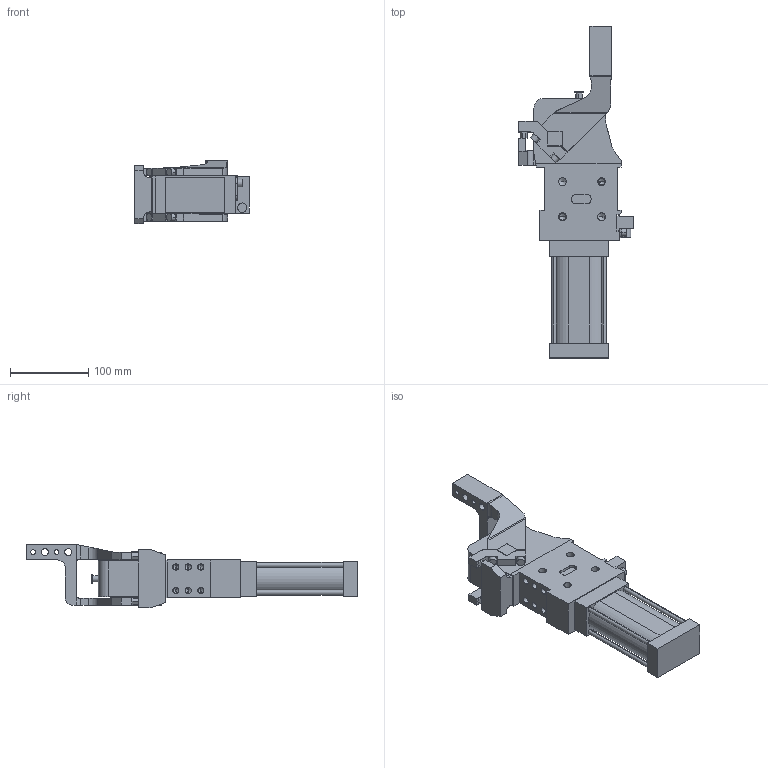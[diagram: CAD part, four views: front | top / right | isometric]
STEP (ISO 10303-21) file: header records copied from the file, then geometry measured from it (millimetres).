
FILE_DESCRIPTION (( 'STEP AP214' ), '1' );
FILE_NAME ('cpl50th3ssi1g_75.STEP', '2023-01-26T10:01:45', ( '' ), ( '' ), 'SwSTEP 2.0', 'SolidWorks 2022', '' );
FILE_SCHEMA (( 'AUTOMOTIVE_DESIGN' ));
Length unit declared in the file: millimetre
Products named in the file (4): leva_h3ss_cpl50t; meccanica_cpl_50_tassello_esterno; cpl50th3ssi1g_75; blocchetto_VEP_0
Assembly tree (3 placements, depth 2):
  cpl50th3ssi1g_75
    meccanica_cpl_50_tassello_esterno
    blocchetto_VEP_0
    leva_h3ss_cpl50t
Bounding box: 146.5 x 424.5 x 81 mm (x, y, z)
Volume: 1441874.3 mm3; surface area: 176551.2 mm2
Topology: 3 solids, 3 shells, 438 faces, 1140 edges, 713 vertices
Faces by surface type: plane 226, cylinder 162, cone 50
Entity records: 14663 total; most frequent: CARTESIAN_POINT 2354, DIRECTION 2301, ORIENTED_EDGE 2188, EDGE_CURVE 1094, AXIS2_PLACEMENT_3D 778, LINE 745, VECTOR 745, VERTEX_POINT 713
